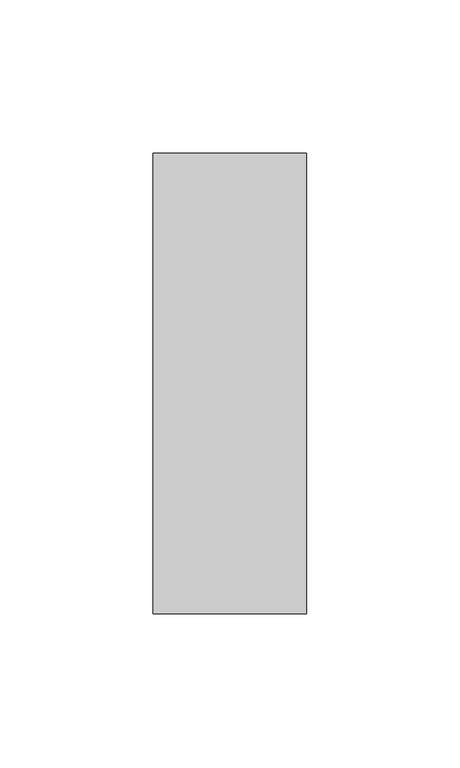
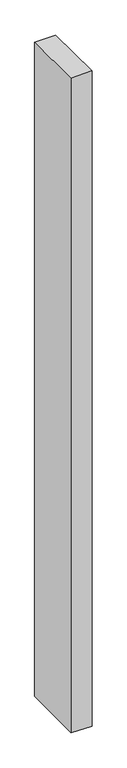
"""IFC4 building model written with IfcOpenShell, lengths in millimetres: member geometry, Прямоугольный импост : 50 x 150 мм."""

from ifc_helpers import new_model, si_unit, origin, place, context, project, spatial, faceted_brep, source, transform, mapped, element, save


def member_4c06c485(model_context):
    return source(origin(), model_context, "Body", "Brep", [
        faceted_brep([(-25.0, 75.0, -0.6645619), (25.0, 75.0, 0.3226425), (25.0, 75.0, -1649.5364495), (-25.0, 75.0, -1648.5984559), (-25.0, -75.0, -0.3226425), (-25.0, -75.0, -1650.0761413), (25.0, -75.0, 0.6645619), (25.0, -75.0, -1651.0141349)], [[[0, 1, 2, 3]], [[4, 0, 3, 5]], [[6, 4, 5, 7]], [[1, 6, 7, 2]], [[1, 0, 4, 6]], [[2, 7, 5, 3]]]),
    ])


if __name__ == "__main__":
    model = new_model("IFC4")
    model_context = context("Model", 3, world=origin())
    ifc_project = project(units=[si_unit("LENGTHUNIT", "METRE", prefix="MILLI")], contexts=[model_context])
    site = spatial("IfcSite", under=ifc_project)
    building = spatial("IfcBuilding", under=site)
    placement = place(None, origin())
    member_shape = member_4c06c485(model_context)
    element("IfcMember", 1, ObjectType="Прямоугольный импост : 50 x 150 мм", at=placement, inside=building, context=model_context, shape_type="MappedRepresentation", body=[
        mapped(member_shape, transform((0.0, 0.0, 0.0), x_axis=(1.0, 0.0, 0.0), y_axis=(0.0, 1.0, 0.0), z_axis=(0.0, 0.0, 1.0))),
    ])
    save(model, "model.ifc")
